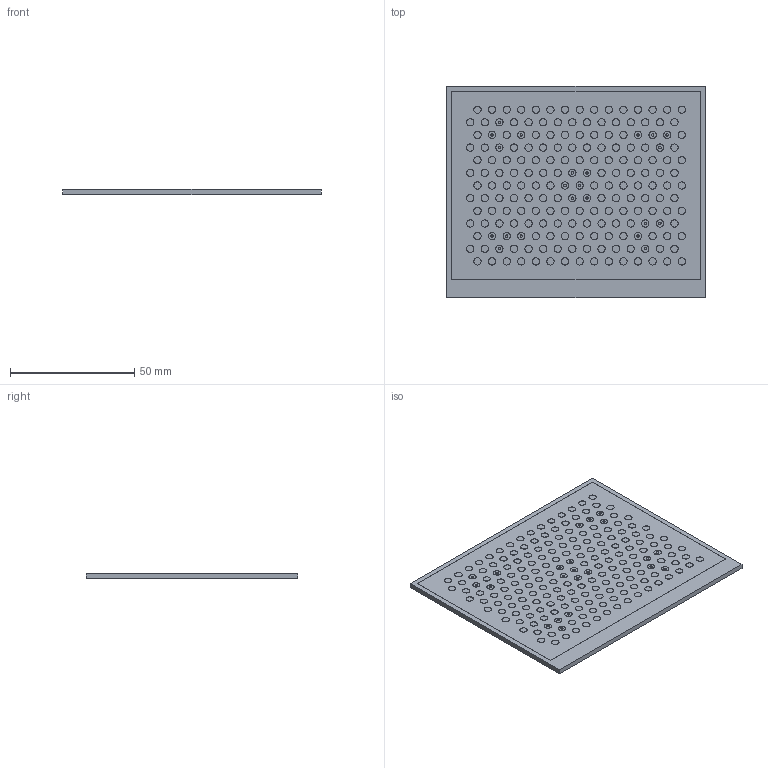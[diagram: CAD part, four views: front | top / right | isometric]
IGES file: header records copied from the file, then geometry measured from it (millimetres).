
Global section: file name: 153-13570_ZCP 100-13x15; native system: Autodesk Inventor 2018; preprocessor: unknown; author: ss; date: 20190321.120421; units: millimetre
Bounding box: 104 x 85 x 2.05 mm (x, y, z)
Volume: 17993.7 mm3; surface area: 18549.3 mm2
Topology: 1 solids, 1 shells, 445 faces, 675 edges, 450 vertices
Faces by surface type: bspline 445
